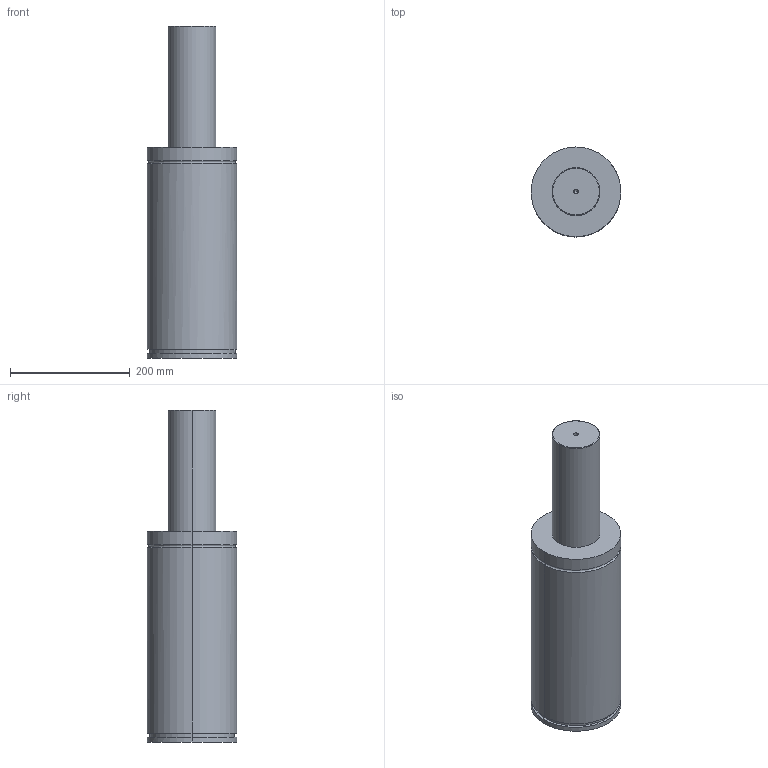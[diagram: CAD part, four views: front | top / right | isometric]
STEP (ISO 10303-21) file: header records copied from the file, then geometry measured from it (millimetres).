
FILE_DESCRIPTION(/* description */ (''),/* implementation_level */ '2;1');
FILE_NAME(/* name */ '3d_gse150-200_03873_r00.stp',/* time_stamp */ '2011-01-10T14:15:20+09:00',/* author */ ('MISUMI'),/* organization */ (''),/* preprocessor_version */ 'ST-DEVELOPER v11',/* originating_system */ 'UGS - NX 5.0',/* authorisation */ '');
FILE_SCHEMA (('CONFIG_CONTROL_DESIGN'));
Length unit declared in the file: millimetre
Products named in the file (1): 3d_gse150-200_03873_r00
Bounding box: 150 x 150 x 555 mm (x, y, z)
Volume: 7214190.6 mm3; surface area: 260582.1 mm2
Topology: 1 solids, 1 shells, 75 faces, 161 edges, 103 vertices
Faces by surface type: cylinder 34, plane 27, cone 10, torus 4
Entity records: 2145 total; most frequent: DIRECTION 393, CARTESIAN_POINT 360, ORIENTED_EDGE 318, AXIS2_PLACEMENT_3D 164, EDGE_CURVE 159, VERTEX_POINT 103, EDGE_LOOP 92, CIRCLE 88
